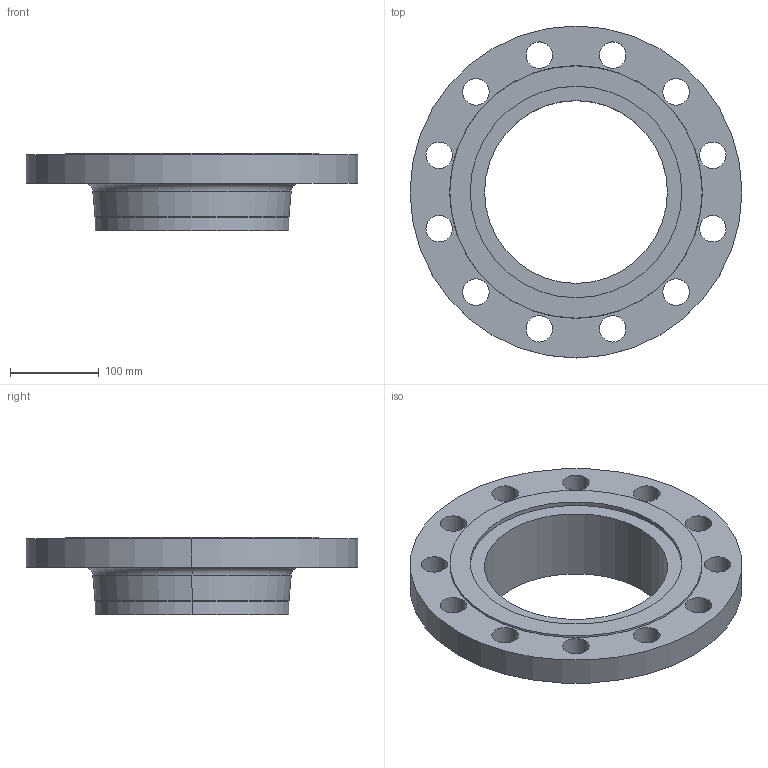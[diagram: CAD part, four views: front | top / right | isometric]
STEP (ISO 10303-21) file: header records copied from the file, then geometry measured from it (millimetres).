
FILE_DESCRIPTION (( 'STEP AP214' ), '1' );
FILE_NAME ('PN40 DN200 Type 11 - Type G Face.STEP', '2019-01-05T02:18:03', ( '' ), ( '' ), 'SwSTEP 2.0', 'SolidWorks 2019', '' );
FILE_SCHEMA (( 'AUTOMOTIVE_DESIGN' ));
Length unit declared in the file: millimetre
Products named in the file (1): PN40 DN200 Type 11 - Type G Face
Bounding box: 375 x 375 x 88 mm (x, y, z)
Volume: 2478876.5 mm3; surface area: 302870.6 mm2
Topology: 1 solids, 1 shells, 45 faces, 114 edges, 74 vertices
Faces by surface type: cylinder 32, plane 5, torus 4, cone 4
Entity records: 1484 total; most frequent: DIRECTION 284, CARTESIAN_POINT 234, ORIENTED_EDGE 228, AXIS2_PLACEMENT_3D 124, EDGE_CURVE 114, CIRCLE 78, EDGE_LOOP 74, VERTEX_POINT 74
